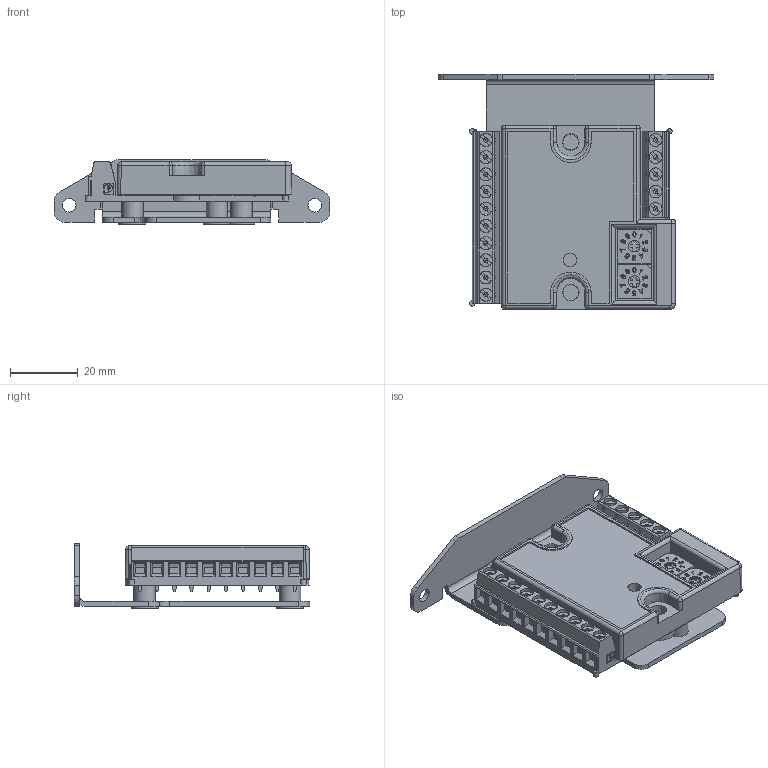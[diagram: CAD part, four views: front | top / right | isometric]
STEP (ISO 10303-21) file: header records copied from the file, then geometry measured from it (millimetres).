
FILE_DESCRIPTION((''),'2;1');
FILE_NAME('C:\TurckZip\FDN20-S0404G-0220.stp','2010-12-01T11:06:39',('IKOROL'),(''),'Autodesk Inventor 2010','Autodesk Inventor 2010','');
FILE_SCHEMA(('CONFIG_CONTROL_DESIGN'));
Length unit declared in the file: millimetre
Products named in the file (1): Part11
Bounding box: 81.5 x 69.5 x 19.1 mm (x, y, z)
Volume: 27167.8 mm3; surface area: 27969.5 mm2
Topology: 1 solids, 6 shells, 1527 faces, 3923 edges, 2511 vertices
Faces by surface type: plane 1057, bspline 195, cylinder 154, cone 84, sphere 23, torus 14
Full cylindrical faces by diameter (mm): 0.457 x2, 2.389 x2, 3.141 x3, 3.4 x2, 3.8 x15, 3.82 x3, 3.83 x15, 3.988 x2, 4 x3, 6.35 x3, 8 x3
Entity records: 50543 total; most frequent: CARTESIAN_POINT 13496, ORIENTED_EDGE 7636, DIRECTION 6587, EDGE_CURVE 3818, VECTOR 2629, LINE 2629, VERTEX_POINT 2481, AXIS2_PLACEMENT_3D 1979
